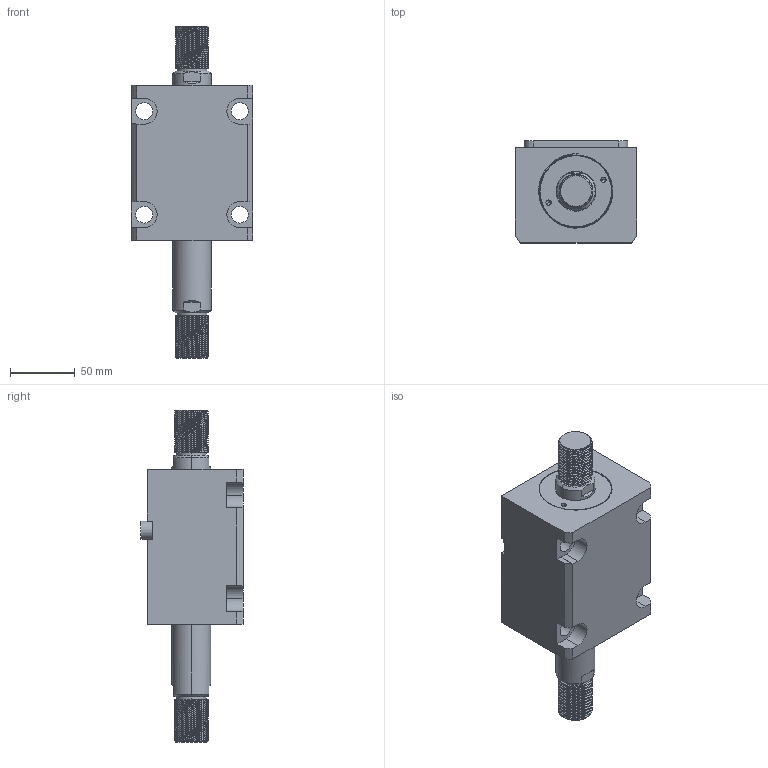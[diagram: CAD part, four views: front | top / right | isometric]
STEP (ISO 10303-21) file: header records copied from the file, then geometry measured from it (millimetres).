
FILE_DESCRIPTION (( 'STEP AP203' ), '1' );
FILE_NAME ('CHTB-LWM50-45W.STEP', '2018-05-22T08:03:27', ( '' ), ( '' ), 'SwSTEP 2.0', 'SolidWorks 2015', '' );
FILE_SCHEMA (( 'CONFIG_CONTROL_DESIGN' ));
Length unit declared in the file: millimetre
Products named in the file (4): CHTM-SDMA50QG; 活塞杆LWM50-45W; 掛极LWM50-45W; CHTB-LWM50-45W
Assembly tree (3 placements, depth 2):
  CHTB-LWM50-45W
    掛极LWM50-45W
    CHTM-SDMA50QG
    活塞杆LWM50-45W
Bounding box: 94 x 79 x 257 mm (x, y, z)
Volume: 806393.2 mm3; surface area: 130255 mm2
Topology: 3 solids, 3 shells, 304 faces, 842 edges, 560 vertices
Faces by surface type: cylinder 188, plane 64, cone 18, bspline 18, torus 16
Entity records: 19304 total; most frequent: CARTESIAN_POINT 11877, ORIENTED_EDGE 1676, DIRECTION 1272, EDGE_CURVE 838, VERTEX_POINT 560, AXIS2_PLACEMENT_3D 484, EDGE_LOOP 340, FACE_OUTER_BOUND 304
